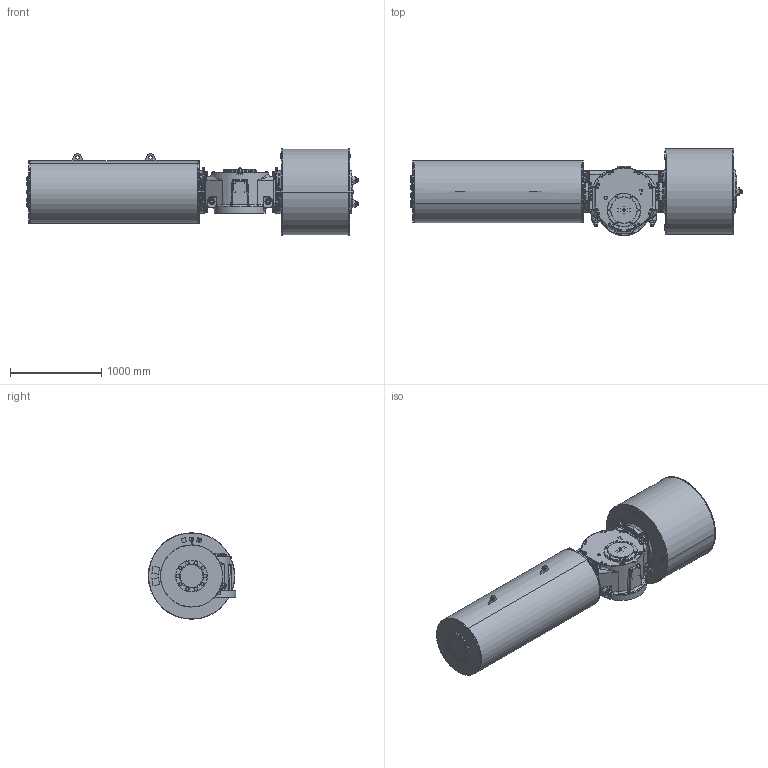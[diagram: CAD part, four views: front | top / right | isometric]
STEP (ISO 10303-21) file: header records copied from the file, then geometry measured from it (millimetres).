
FILE_DESCRIPTION (( 'STEP AP203' ), '1' );
FILE_NAME ('VTS7-900-SR-FO.STEP', '2023-01-01T10:10:27', ( '' ), ( '' ), 'SwSTEP 2.0', 'SolidWorks 2020', '' );
FILE_SCHEMA (( 'CONFIG_CONTROL_DESIGN' ));
Length unit declared in the file: millimetre
Products named in the file (1): VTS7-900-SR-FO
Bounding box: 3633.22 x 956.5 x 947 mm (x, y, z)
Volume: 1396736777.7 mm3; surface area: 12030608.8 mm2
Topology: 54 solids, 55 shells, 3370 faces, 8209 edges, 5015 vertices
Faces by surface type: cylinder 1140, plane 1071, cone 786, bspline 366, torus 7
Entity records: 126564 total; most frequent: CARTESIAN_POINT 49817, ORIENTED_EDGE 16134, DIRECTION 16111, EDGE_CURVE 8067, AXIS2_PLACEMENT_3D 6503, VERTEX_POINT 5015, EDGE_LOOP 3704, CIRCLE 3498
